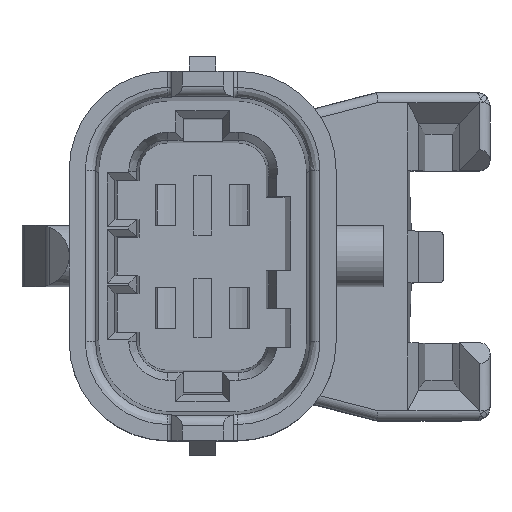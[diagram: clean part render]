
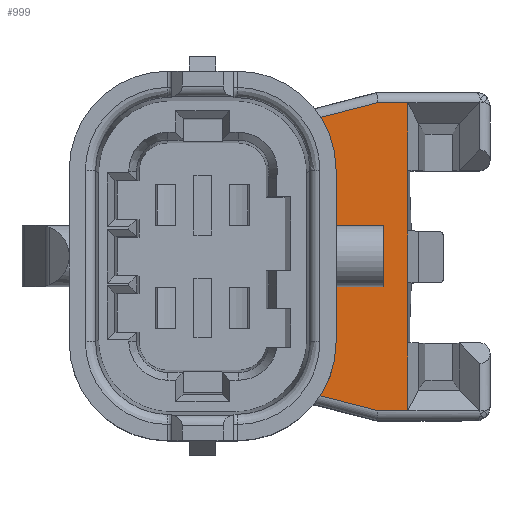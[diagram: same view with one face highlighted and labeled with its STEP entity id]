
A CAD part, top view. The second image highlights one B-rep face of the part: STEP entity #999.
In plain terms, the highlighted planar face has unit normal (0, 0, 1).
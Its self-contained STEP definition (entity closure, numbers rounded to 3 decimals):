
#446=CIRCLE('',#10601,3.2);
#447=CIRCLE('',#10602,1.);
#448=CIRCLE('',#10603,1.);
#449=CIRCLE('',#10604,1.);
#450=CIRCLE('',#10605,1.);
#451=CIRCLE('',#10606,3.2);
#999=ADVANCED_FACE('',(#1881),#1633,.T.);
#1633=PLANE('',#10607);
#1881=FACE_OUTER_BOUND('',#2522,.T.);
#2522=EDGE_LOOP('',(#3524,#3525,#3526,#3527,#3528,#3529,#3530,#3531,#3532,
#3533,#3534,#3535,#3536,#3537,#3538,#3539,#3540,#3541,#3542,#3543,#3544,
#3545));
#3524=ORIENTED_EDGE('',*,*,#7531,.T.);
#3525=ORIENTED_EDGE('',*,*,#7532,.T.);
#3526=ORIENTED_EDGE('',*,*,#7533,.T.);
#3527=ORIENTED_EDGE('',*,*,#7534,.T.);
#3528=ORIENTED_EDGE('',*,*,#7535,.T.);
#3529=ORIENTED_EDGE('',*,*,#7536,.T.);
#3530=ORIENTED_EDGE('',*,*,#7537,.F.);
#3531=ORIENTED_EDGE('',*,*,#7538,.T.);
#3532=ORIENTED_EDGE('',*,*,#7539,.T.);
#3533=ORIENTED_EDGE('',*,*,#7540,.T.);
#3534=ORIENTED_EDGE('',*,*,#7541,.T.);
#3535=ORIENTED_EDGE('',*,*,#7542,.T.);
#3536=ORIENTED_EDGE('',*,*,#7543,.T.);
#3537=ORIENTED_EDGE('',*,*,#7544,.T.);
#3538=ORIENTED_EDGE('',*,*,#7545,.T.);
#3539=ORIENTED_EDGE('',*,*,#7546,.T.);
#3540=ORIENTED_EDGE('',*,*,#7547,.T.);
#3541=ORIENTED_EDGE('',*,*,#7548,.T.);
#3542=ORIENTED_EDGE('',*,*,#7549,.T.);
#3543=ORIENTED_EDGE('',*,*,#7550,.T.);
#3544=ORIENTED_EDGE('',*,*,#7551,.T.);
#3545=ORIENTED_EDGE('',*,*,#7552,.T.);
#6587=VERTEX_POINT('',#15041);
#6588=VERTEX_POINT('',#15042);
#6589=VERTEX_POINT('',#15044);
#6590=VERTEX_POINT('',#15046);
#6591=VERTEX_POINT('',#15048);
#6592=VERTEX_POINT('',#15050);
#6593=VERTEX_POINT('',#15052);
#6594=VERTEX_POINT('',#15054);
#6595=VERTEX_POINT('',#15056);
#6596=VERTEX_POINT('',#15058);
#6597=VERTEX_POINT('',#15060);
#6598=VERTEX_POINT('',#15062);
#6599=VERTEX_POINT('',#15064);
#6600=VERTEX_POINT('',#15066);
#6601=VERTEX_POINT('',#15068);
#6602=VERTEX_POINT('',#15070);
#6603=VERTEX_POINT('',#15072);
#6604=VERTEX_POINT('',#15074);
#6605=VERTEX_POINT('',#15076);
#6606=VERTEX_POINT('',#15078);
#6607=VERTEX_POINT('',#15080);
#6608=VERTEX_POINT('',#15082);
#7531=EDGE_CURVE('',#6587,#6588,#9045,.T.);
#7532=EDGE_CURVE('',#6588,#6589,#9046,.T.);
#7533=EDGE_CURVE('',#6589,#6590,#9047,.T.);
#7534=EDGE_CURVE('',#6590,#6591,#9048,.T.);
#7535=EDGE_CURVE('',#6591,#6592,#9049,.T.);
#7536=EDGE_CURVE('',#6592,#6593,#9050,.T.);
#7537=EDGE_CURVE('',#6594,#6593,#9051,.T.);
#7538=EDGE_CURVE('',#6594,#6595,#9052,.T.);
#7539=EDGE_CURVE('',#6595,#6596,#446,.T.);
#7540=EDGE_CURVE('',#6596,#6597,#9053,.T.);
#7541=EDGE_CURVE('',#6597,#6598,#447,.T.);
#7542=EDGE_CURVE('',#6598,#6599,#9054,.T.);
#7543=EDGE_CURVE('',#6599,#6600,#9055,.T.);
#7544=EDGE_CURVE('',#6600,#6601,#448,.T.);
#7545=EDGE_CURVE('',#6601,#6602,#9056,.T.);
#7546=EDGE_CURVE('',#6602,#6603,#449,.T.);
#7547=EDGE_CURVE('',#6603,#6604,#9057,.T.);
#7548=EDGE_CURVE('',#6604,#6605,#9058,.T.);
#7549=EDGE_CURVE('',#6605,#6606,#450,.T.);
#7550=EDGE_CURVE('',#6606,#6607,#9059,.T.);
#7551=EDGE_CURVE('',#6607,#6608,#451,.T.);
#7552=EDGE_CURVE('',#6608,#6587,#9060,.T.);
#9045=LINE('',#15040,#9857);
#9046=LINE('',#15043,#9858);
#9047=LINE('',#15045,#9859);
#9048=LINE('',#15047,#9860);
#9049=LINE('',#15049,#9861);
#9050=LINE('',#15051,#9862);
#9051=LINE('',#15053,#9863);
#9052=LINE('',#15055,#9864);
#9053=LINE('',#15059,#9865);
#9054=LINE('',#15063,#9866);
#9055=LINE('',#15065,#9867);
#9056=LINE('',#15069,#9868);
#9057=LINE('',#15073,#9869);
#9058=LINE('',#15075,#9870);
#9059=LINE('',#15079,#9871);
#9060=LINE('',#15083,#9872);
#9857=VECTOR('',#11869,1.);
#9858=VECTOR('',#11870,1.);
#9859=VECTOR('',#11871,1.);
#9860=VECTOR('',#11872,1.);
#9861=VECTOR('',#11873,1.);
#9862=VECTOR('',#11874,1.);
#9863=VECTOR('',#11875,1.);
#9864=VECTOR('',#11876,1.);
#9865=VECTOR('',#11879,1.);
#9866=VECTOR('',#11882,1.);
#9867=VECTOR('',#11883,1.);
#9868=VECTOR('',#11886,1.);
#9869=VECTOR('',#11889,1.);
#9870=VECTOR('',#11890,1.);
#9871=VECTOR('',#11893,1.);
#9872=VECTOR('',#11896,1.);
#10601=AXIS2_PLACEMENT_3D('',#15057,#11877,#11878);
#10602=AXIS2_PLACEMENT_3D('',#15061,#11880,#11881);
#10603=AXIS2_PLACEMENT_3D('',#15067,#11884,#11885);
#10604=AXIS2_PLACEMENT_3D('',#15071,#11887,#11888);
#10605=AXIS2_PLACEMENT_3D('',#15077,#11891,#11892);
#10606=AXIS2_PLACEMENT_3D('',#15081,#11894,#11895);
#10607=AXIS2_PLACEMENT_3D('',#15084,#11897,#11898);
#11869=DIRECTION('',(1.,0.,0.));
#11870=DIRECTION('',(0.,1.,0.));
#11871=DIRECTION('',(0.,1.,0.));
#11872=DIRECTION('',(0.,1.,0.));
#11873=DIRECTION('',(0.,1.,0.));
#11874=DIRECTION('',(0.,1.,0.));
#11875=DIRECTION('',(1.,0.,0.));
#11876=DIRECTION('',(-0.968,-0.251,0.));
#11877=DIRECTION('',(0.,0.,-1.));
#11878=DIRECTION('',(1.,0.,0.));
#11879=DIRECTION('',(1.,0.,0.));
#11880=DIRECTION('',(0.,0.,-1.));
#11881=DIRECTION('',(1.,0.,0.));
#11882=DIRECTION('',(0.,-1.,0.));
#11883=DIRECTION('',(1.,0.,0.));
#11884=DIRECTION('',(0.,0.,-1.));
#11885=DIRECTION('',(1.,0.,0.));
#11886=DIRECTION('',(0.,-1.,0.));
#11887=DIRECTION('',(0.,0.,-1.));
#11888=DIRECTION('',(1.,0.,0.));
#11889=DIRECTION('',(-1.,0.,0.));
#11890=DIRECTION('',(0.,-1.,0.));
#11891=DIRECTION('',(0.,0.,-1.));
#11892=DIRECTION('',(1.,0.,0.));
#11893=DIRECTION('',(-1.,0.,0.));
#11894=DIRECTION('',(0.,0.,-1.));
#11895=DIRECTION('',(1.,0.,0.));
#11896=DIRECTION('',(0.968,-0.251,0.));
#11897=DIRECTION('',(0.,0.,1.));
#11898=DIRECTION('',(1.,0.,0.));
#15040=CARTESIAN_POINT('',(14.,-7.5,25.4));
#15041=CARTESIAN_POINT('',(8.524,-7.5,25.4));
#15042=CARTESIAN_POINT('',(10.,-7.5,25.4));
#15043=CARTESIAN_POINT('',(10.,-8.,25.4));
#15044=CARTESIAN_POINT('',(10.,-4.2,25.4));
#15045=CARTESIAN_POINT('',(10.,-8.,25.4));
#15046=CARTESIAN_POINT('',(10.,-1.25,25.4));
#15047=CARTESIAN_POINT('',(10.,-8.,25.4));
#15048=CARTESIAN_POINT('',(10.,1.25,25.4));
#15049=CARTESIAN_POINT('',(10.,-8.,25.4));
#15050=CARTESIAN_POINT('',(10.,4.2,25.4));
#15051=CARTESIAN_POINT('',(10.,-8.,25.4));
#15052=CARTESIAN_POINT('',(10.,7.5,25.4));
#15053=CARTESIAN_POINT('',(14.,7.5,25.4));
#15054=CARTESIAN_POINT('',(8.524,7.5,25.4));
#15055=CARTESIAN_POINT('',(3.719,6.254,25.4));
#15056=CARTESIAN_POINT('',(4.037,6.336,25.4));
#15057=CARTESIAN_POINT('',(1.7,4.15,25.4));
#15058=CARTESIAN_POINT('',(4.198,6.15,25.4));
#15059=CARTESIAN_POINT('',(14.,6.15,25.4));
#15060=CARTESIAN_POINT('',(4.775,6.15,25.4));
#15061=CARTESIAN_POINT('',(4.775,5.15,25.4));
#15062=CARTESIAN_POINT('',(5.775,5.15,25.4));
#15063=CARTESIAN_POINT('',(5.775,-8.,25.4));
#15064=CARTESIAN_POINT('',(5.775,1.1,25.4));
#15065=CARTESIAN_POINT('',(6.,1.1,25.4));
#15066=CARTESIAN_POINT('',(6.,1.1,25.4));
#15067=CARTESIAN_POINT('',(6.,0.1,25.4));
#15068=CARTESIAN_POINT('',(7.,0.1,25.4));
#15069=CARTESIAN_POINT('',(7.,-8.,25.4));
#15070=CARTESIAN_POINT('',(7.,-0.1,25.4));
#15071=CARTESIAN_POINT('',(6.,-0.1,25.4));
#15072=CARTESIAN_POINT('',(6.,-1.1,25.4));
#15073=CARTESIAN_POINT('',(5.275,-1.1,25.4));
#15074=CARTESIAN_POINT('',(5.775,-1.1,25.4));
#15075=CARTESIAN_POINT('',(5.775,-8.,25.4));
#15076=CARTESIAN_POINT('',(5.775,-5.15,25.4));
#15077=CARTESIAN_POINT('',(4.775,-5.15,25.4));
#15078=CARTESIAN_POINT('',(4.775,-6.15,25.4));
#15079=CARTESIAN_POINT('',(14.,-6.15,25.4));
#15080=CARTESIAN_POINT('',(4.198,-6.15,25.4));
#15081=CARTESIAN_POINT('',(1.7,-4.15,25.4));
#15082=CARTESIAN_POINT('',(4.037,-6.336,25.4));
#15083=CARTESIAN_POINT('',(6.695,-7.026,25.4));
#15084=CARTESIAN_POINT('',(14.,-8.,25.4));
